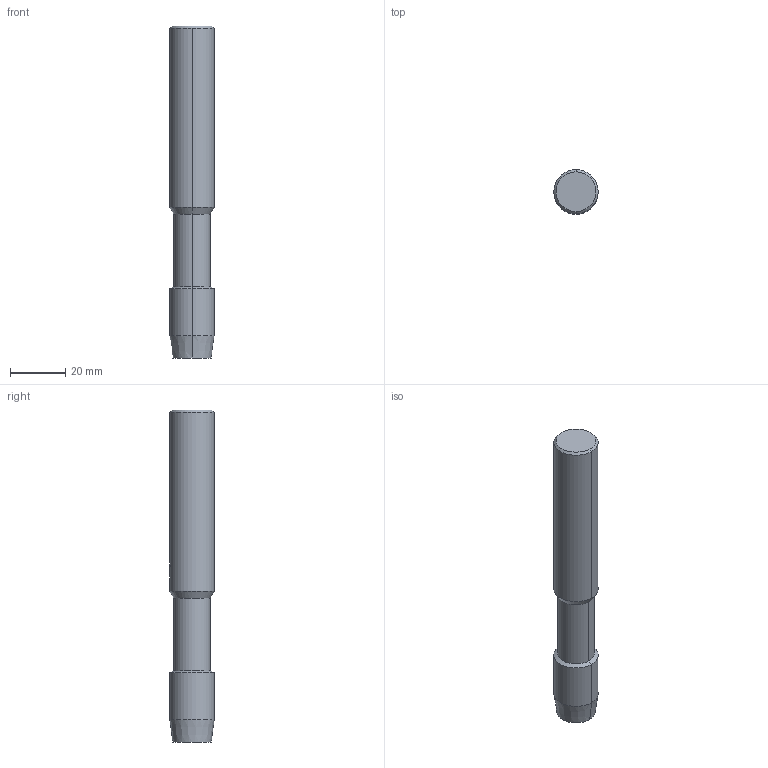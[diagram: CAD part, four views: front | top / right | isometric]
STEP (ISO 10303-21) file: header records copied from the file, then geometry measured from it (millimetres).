
FILE_DESCRIPTION(('no description'),'unknown implementation level');
FILE_NAME('solidkRdmTh4G2sIIslEQrGI6S251G5Y_1.STP',' ',('CIMSOURCE GmbH'),('CADClick - KiM GmbH - www.kimweb.de'),'unknown preprocess','ACIS','unknown authorization');
FILE_SCHEMA(('automotive_design'));
Length unit declared in the file: millimetre
Products named in the file (2): NOCUT; CUT
Bounding box: 16 x 16 x 120 mm (x, y, z)
Volume: 22124.5 mm3; surface area: 8175.2 mm2
Topology: 2 solids, 2 shells, 39 faces, 89 edges, 54 vertices
Faces by surface type: cylinder 18, cone 12, plane 9
Entity records: 2432 total; most frequent: CARTESIAN_POINT 467, DIRECTION 197, STYLED_ITEM 184, PRESENTATION_STYLE_ASSIGNMENT 184, COLOUR_RGB 184, ORIENTED_EDGE 178, EDGE_CURVE 89, CURVE_STYLE 89
